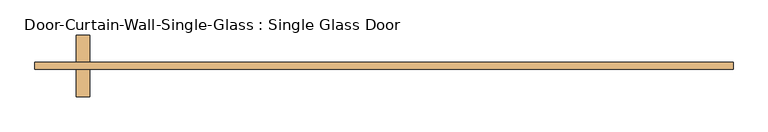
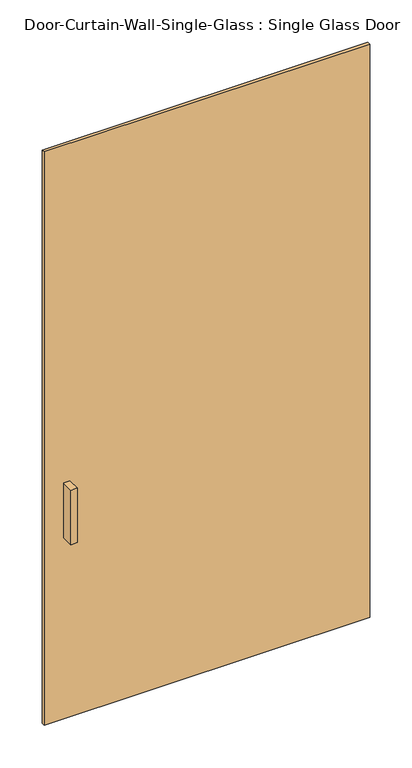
"""IFC4 building model written with IfcOpenShell, lengths in millimetres: door geometry, Door-Curtain-Wall-Single-Glass : Single Glass Door."""

from ifc_helpers import new_model, si_unit, frame, origin, origin_with_axes, place, context, project, spatial, polyline, outline, extrude, source, transform, mapped, element, save


def door_curtain_wall_single_glass_single_glass_door_528e1f17(model_context):
    return source(origin(), model_context, "Body", "SweptSolid", [
        extrude(outline(polyline([(645.5833332, 50.8), (645.5833332, 38.1), (-645.5833332, 38.1), (-645.5833332, 50.8), (645.5833332, 50.8)])), origin_with_axes(), (0.0, 0.0, 1.0), 2406.65),
        extrude(outline(polyline([(-543.9833332, -12.7), (-569.3833332, -12.7), (-569.3833332, 38.1), (-543.9833332, 38.1), (-543.9833332, -12.7)])), frame((0.0, 0.0, 762.0), z_axis=(0.0, 0.0, 1.0), x_axis=(1.0, 0.0, 0.0)), (0.0, 0.0, 1.0), 228.6),
        extrude(outline(polyline([(-569.3833332, 101.6), (-543.9833332, 101.6), (-543.9833332, 50.8), (-569.3833332, 50.8), (-569.3833332, 101.6)])), frame((0.0, 0.0, 762.0), z_axis=(0.0, 0.0, 1.0), x_axis=(1.0, 0.0, 0.0)), (0.0, 0.0, 1.0), 228.6),
    ])


if __name__ == "__main__":
    model = new_model("IFC4")
    model_context = context("Model", 3, world=origin())
    ifc_project = project(units=[si_unit("LENGTHUNIT", "METRE", prefix="MILLI")], contexts=[model_context])
    site = spatial("IfcSite", under=ifc_project)
    building = spatial("IfcBuilding", under=site)
    placement = place(None, origin())
    door_curtain_wall_single_glass_single_glass_door_shape = door_curtain_wall_single_glass_single_glass_door_528e1f17(model_context)
    element("IfcDoor", 1, ObjectType="Door-Curtain-Wall-Single-Glass : Single Glass Door", at=placement, inside=building, context=model_context, shape_type="MappedRepresentation", body=[
        mapped(door_curtain_wall_single_glass_single_glass_door_shape, transform((0.0, 0.0, 0.0), x_axis=(1.0, 0.0, 0.0), y_axis=(0.0, 1.0, 0.0), z_axis=(0.0, 0.0, 1.0))),
    ])
    save(model, "model.ifc")
